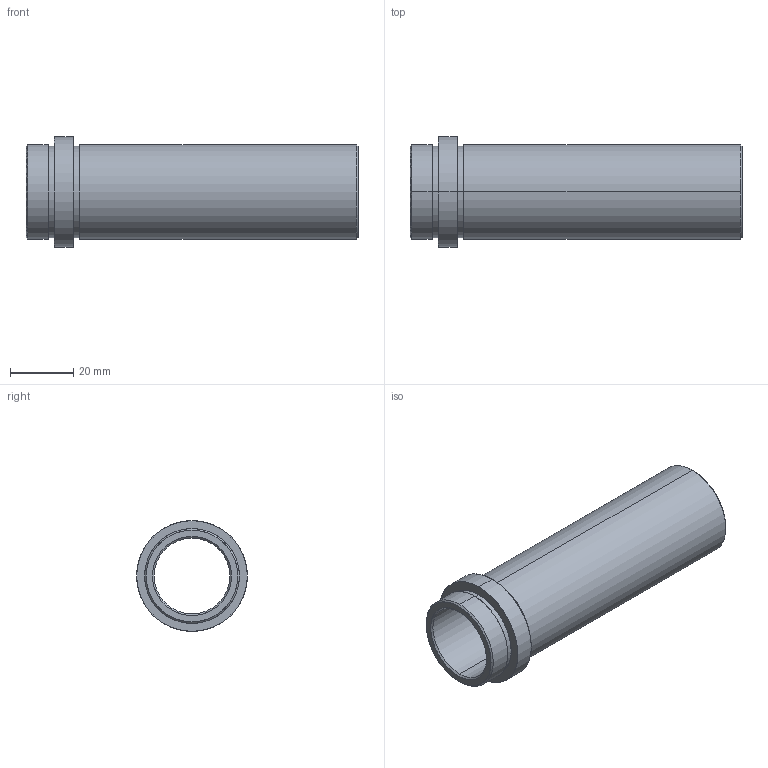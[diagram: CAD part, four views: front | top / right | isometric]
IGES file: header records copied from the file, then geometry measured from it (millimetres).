
Start section: SolidWorks IGES FILE using analytic representation for surfaces
Global section: file name: D:\zzzzz\Delta\D21\24\D21 - 24x96.IGS; native system: SolidWorks 2004 by SolidWorks Corporation; preprocessor: Version 5.3; author: Hkn; date: 080326.192817; units: millimetre
Bounding box: 105 x 35 x 35 mm (x, y, z)
Surface area: 18999.9 mm2 (no closed solid volume)
Topology: 0 solids, 0 shells, 26 faces, 784 edges, 784 vertices
Faces by surface type: revolution 20, bspline 6
